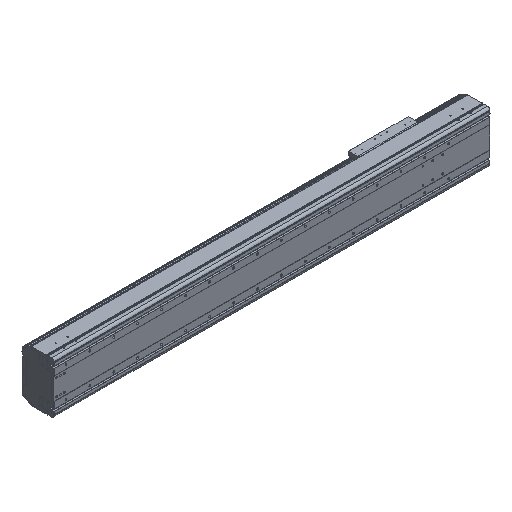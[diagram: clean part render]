
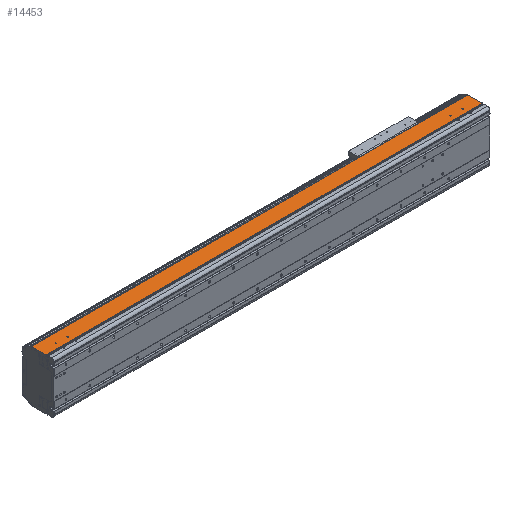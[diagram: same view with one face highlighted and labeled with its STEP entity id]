
A CAD part, isometric view. The second image highlights one B-rep face of the part: STEP entity #14453.
In plain terms, the highlighted planar face has unit normal (0, 0, 1).
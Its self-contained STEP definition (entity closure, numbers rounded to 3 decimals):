
#46=DIRECTION('',(0.,-1.,0.));
#47=VECTOR('',#46,2.55);
#48=CARTESIAN_POINT('',(0.,34.65,107.));
#49=LINE('',#48,#47);
#2011=DIRECTION('',(1.,0.,0.));
#2012=VECTOR('',#2011,2.);
#2013=CARTESIAN_POINT('',(0.,34.65,107.));
#2014=LINE('',#2013,#2012);
#2019=CARTESIAN_POINT('',(-59.5,54.,107.));
#2020=DIRECTION('',(0.,0.,-1.));
#2021=DIRECTION('',(1.,0.,0.));
#2022=AXIS2_PLACEMENT_3D('',#2019,#2020,#2021);
#2024=CARTESIAN_POINT('',(-59.5,54.,107.));
#2025=DIRECTION('',(0.,0.,-1.));
#2026=DIRECTION('',(-1.,0.,0.));
#2027=AXIS2_PLACEMENT_3D('',#2024,#2025,#2026);
#2029=CARTESIAN_POINT('',(-109.5,54.,107.));
#2030=DIRECTION('',(0.,0.,-1.));
#2031=DIRECTION('',(1.,0.,0.));
#2032=AXIS2_PLACEMENT_3D('',#2029,#2030,#2031);
#2034=CARTESIAN_POINT('',(-109.5,54.,107.));
#2035=DIRECTION('',(0.,0.,-1.));
#2036=DIRECTION('',(-1.,0.,0.));
#2037=AXIS2_PLACEMENT_3D('',#2034,#2035,#2036);
#2039=CARTESIAN_POINT('',(-1759.5,54.,107.));
#2040=DIRECTION('',(0.,0.,-1.));
#2041=DIRECTION('',(1.,0.,0.));
#2042=AXIS2_PLACEMENT_3D('',#2039,#2040,#2041);
#2044=CARTESIAN_POINT('',(-1759.5,54.,107.));
#2045=DIRECTION('',(0.,0.,-1.));
#2046=DIRECTION('',(-1.,0.,0.));
#2047=AXIS2_PLACEMENT_3D('',#2044,#2045,#2046);
#2049=CARTESIAN_POINT('',(-1709.5,54.,107.));
#2050=DIRECTION('',(0.,0.,-1.));
#2051=DIRECTION('',(1.,0.,0.));
#2052=AXIS2_PLACEMENT_3D('',#2049,#2050,#2051);
#2054=CARTESIAN_POINT('',(-1709.5,54.,107.));
#2055=DIRECTION('',(0.,0.,-1.));
#2056=DIRECTION('',(-1.,0.,0.));
#2057=AXIS2_PLACEMENT_3D('',#2054,#2055,#2056);
#2059=DIRECTION('',(0.,-1.,0.));
#2060=VECTOR('',#2059,2.55);
#2061=CARTESIAN_POINT('',(-1819.,34.65,107.));
#2062=LINE('',#2061,#2060);
#2063=DIRECTION('',(0.,-1.,0.));
#2064=VECTOR('',#2063,58.85);
#2065=CARTESIAN_POINT('',(-1821.,93.5,107.));
#2066=LINE('',#2065,#2064);
#2067=DIRECTION('',(0.,1.,0.));
#2068=VECTOR('',#2067,58.85);
#2069=CARTESIAN_POINT('',(2.,34.65,107.));
#2070=LINE('',#2069,#2068);
#2071=DIRECTION('',(1.,0.,0.));
#2072=VECTOR('',#2071,1819.);
#2073=CARTESIAN_POINT('',(-1819.,32.1,107.));
#2074=LINE('',#2073,#2072);
#2183=DIRECTION('',(1.,0.,0.));
#2184=VECTOR('',#2183,2.);
#2185=CARTESIAN_POINT('',(-1821.,34.65,107.));
#2186=LINE('',#2185,#2184);
#3802=DIRECTION('',(-1.,0.,0.));
#3803=VECTOR('',#3802,1823.);
#3804=CARTESIAN_POINT('',(2.,93.5,107.));
#3805=LINE('',#3804,#3803);
#9465=CARTESIAN_POINT('',(-1821.,34.65,107.));
#9466=VERTEX_POINT('',#9465);
#9467=CARTESIAN_POINT('',(-1821.,93.5,107.));
#9468=VERTEX_POINT('',#9467);
#9697=CARTESIAN_POINT('',(-1819.,32.1,107.));
#9698=VERTEX_POINT('',#9697);
#10029=CARTESIAN_POINT('',(0.,32.1,107.));
#10030=VERTEX_POINT('',#10029);
#10031=CARTESIAN_POINT('',(-57.,54.,107.));
#10032=CARTESIAN_POINT('',(-62.,54.,107.));
#10033=VERTEX_POINT('',#10031);
#10034=VERTEX_POINT('',#10032);
#10035=CARTESIAN_POINT('',(-107.,54.,107.));
#10036=CARTESIAN_POINT('',(-112.,54.,107.));
#10037=VERTEX_POINT('',#10035);
#10038=VERTEX_POINT('',#10036);
#10039=CARTESIAN_POINT('',(-1757.,54.,107.));
#10040=CARTESIAN_POINT('',(-1762.,54.,107.));
#10041=VERTEX_POINT('',#10039);
#10042=VERTEX_POINT('',#10040);
#10043=CARTESIAN_POINT('',(-1707.,54.,107.));
#10044=CARTESIAN_POINT('',(-1712.,54.,107.));
#10045=VERTEX_POINT('',#10043);
#10046=VERTEX_POINT('',#10044);
#10738=CARTESIAN_POINT('',(2.,34.65,107.));
#10739=VERTEX_POINT('',#10738);
#10740=CARTESIAN_POINT('',(2.,93.5,107.));
#10741=VERTEX_POINT('',#10740);
#11192=CARTESIAN_POINT('',(0.,34.65,107.));
#11193=VERTEX_POINT('',#11192);
#11272=CARTESIAN_POINT('',(-1819.,34.65,107.));
#11273=VERTEX_POINT('',#11272);
#14410=CARTESIAN_POINT('',(-909.5,62.8,107.));
#14411=DIRECTION('',(0.,0.,1.));
#14412=DIRECTION('',(0.,-1.,0.));
#14413=AXIS2_PLACEMENT_3D('',#14410,#14411,#14412);
#14414=PLANE('',#14413);
#14415=ORIENTED_EDGE('',*,*,#12412,.F.);
#14417=ORIENTED_EDGE('',*,*,#14416,.F.);
#14419=ORIENTED_EDGE('',*,*,#14418,.F.);
#14421=ORIENTED_EDGE('',*,*,#14420,.F.);
#14422=ORIENTED_EDGE('',*,*,#14208,.F.);
#14423=ORIENTED_EDGE('',*,*,#14403,.F.);
#14424=ORIENTED_EDGE('',*,*,#12032,.T.);
#14426=ORIENTED_EDGE('',*,*,#14425,.F.);
#14427=EDGE_LOOP('',(#14415,#14417,#14419,#14421,#14422,#14423,#14424,#14426));
#14428=FACE_OUTER_BOUND('',#14427,.F.);
#14430=ORIENTED_EDGE('',*,*,#14429,.F.);
#14432=ORIENTED_EDGE('',*,*,#14431,.F.);
#14433=EDGE_LOOP('',(#14430,#14432));
#14434=FACE_BOUND('',#14433,.F.);
#14436=ORIENTED_EDGE('',*,*,#14435,.F.);
#14438=ORIENTED_EDGE('',*,*,#14437,.F.);
#14439=EDGE_LOOP('',(#14436,#14438));
#14440=FACE_BOUND('',#14439,.F.);
#14442=ORIENTED_EDGE('',*,*,#14441,.F.);
#14444=ORIENTED_EDGE('',*,*,#14443,.F.);
#14445=EDGE_LOOP('',(#14442,#14444));
#14446=FACE_BOUND('',#14445,.F.);
#14448=ORIENTED_EDGE('',*,*,#14447,.F.);
#14450=ORIENTED_EDGE('',*,*,#14449,.F.);
#14451=EDGE_LOOP('',(#14448,#14450));
#14452=FACE_BOUND('',#14451,.F.);
#14453=ADVANCED_FACE('',(#14428,#14434,#14440,#14446,#14452),#14414,.T.);
#2023=CIRCLE('',#2022,2.5);
#2028=CIRCLE('',#2027,2.5);
#2033=CIRCLE('',#2032,2.5);
#2038=CIRCLE('',#2037,2.5);
#2043=CIRCLE('',#2042,2.5);
#2048=CIRCLE('',#2047,2.5);
#2053=CIRCLE('',#2052,2.5);
#2058=CIRCLE('',#2057,2.5);
#12032=EDGE_CURVE('',#11193,#10030,#49,.T.);
#12412=EDGE_CURVE('',#11273,#9698,#2062,.T.);
#14208=EDGE_CURVE('',#10739,#10741,#2070,.T.);
#14403=EDGE_CURVE('',#11193,#10739,#2014,.T.);
#14416=EDGE_CURVE('',#9466,#11273,#2186,.T.);
#14418=EDGE_CURVE('',#9468,#9466,#2066,.T.);
#14420=EDGE_CURVE('',#10741,#9468,#3805,.T.);
#14425=EDGE_CURVE('',#9698,#10030,#2074,.T.);
#14429=EDGE_CURVE('',#10037,#10038,#2033,.T.);
#14431=EDGE_CURVE('',#10038,#10037,#2038,.T.);
#14435=EDGE_CURVE('',#10041,#10042,#2043,.T.);
#14437=EDGE_CURVE('',#10042,#10041,#2048,.T.);
#14441=EDGE_CURVE('',#10045,#10046,#2053,.T.);
#14443=EDGE_CURVE('',#10046,#10045,#2058,.T.);
#14447=EDGE_CURVE('',#10033,#10034,#2023,.T.);
#14449=EDGE_CURVE('',#10034,#10033,#2028,.T.);
